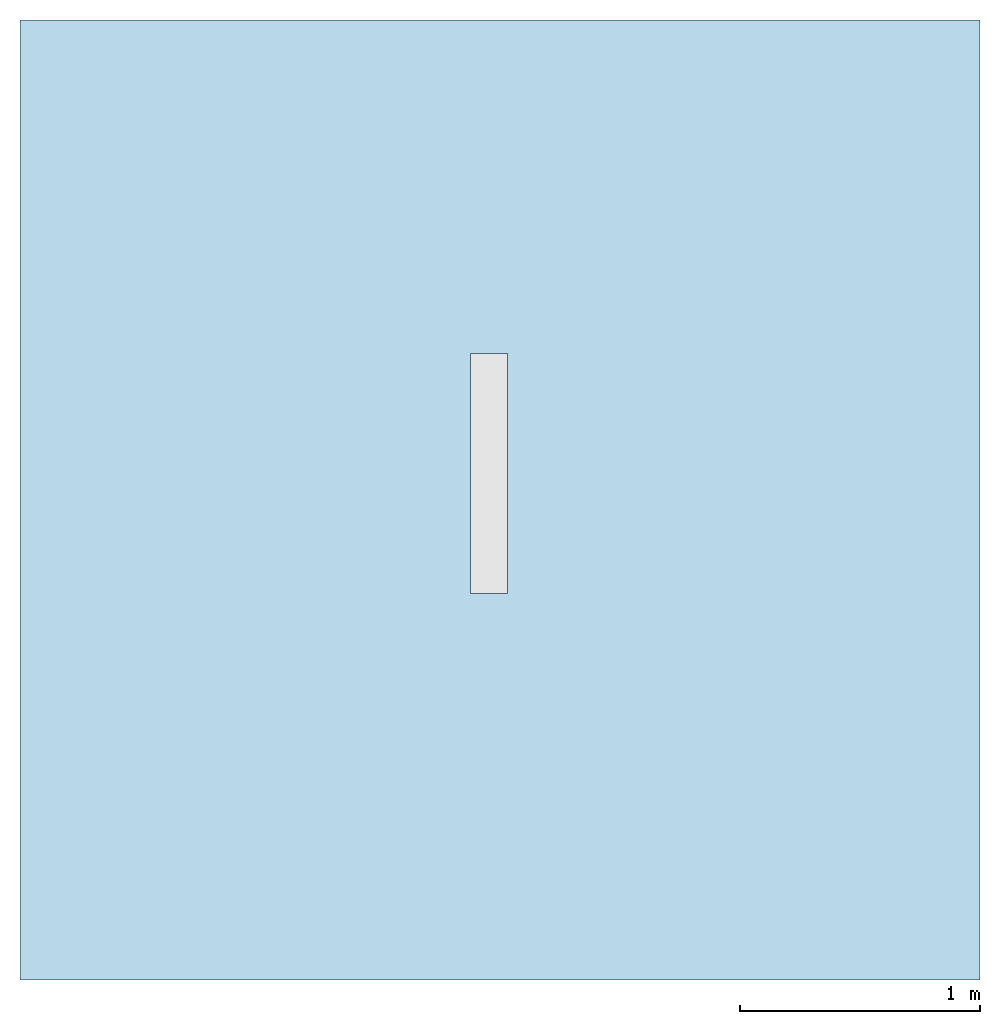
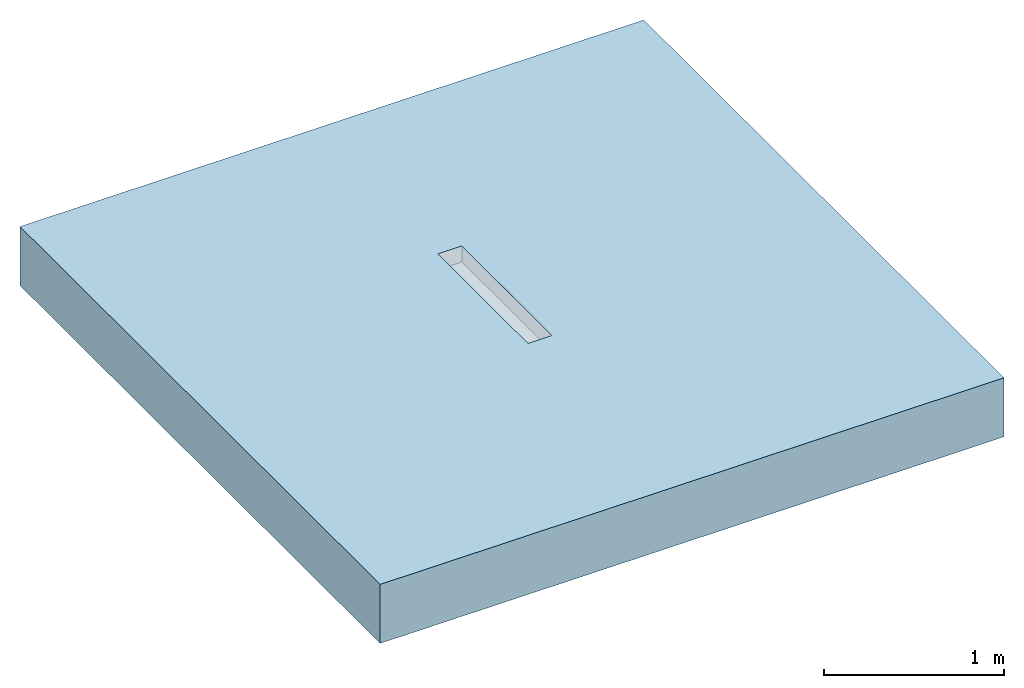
# One storey, part 1 of 2: 1 slab, 1 opening.
"""IFC2X3 building model written with IfcOpenShell, lengths in millimetres."""

import ifcopenshell
import ifcopenshell.guid

model = None  # the IFC model being written
_history = None  # IfcOwnerHistory: only IFC2X3 demands one
_inside = {}  # id of a spatial element -> (the spatial element, [elements in it])
_under = {}  # id of a project, library or spatial element -> (it, [spatial elements below it])
_declared = {}  # id of a project -> (the project, [libraries it declares])
_typed = {}  # id of a type object -> (the type object, [elements of that type])
_made_of = {}  # id of a material, layer set ... -> (it, [elements and type objects made of it])


def new_model(schema):
    """Start an empty IFC model of exactly this schema.

    Asked for "IFC4X3", IfcOpenShell would pick the latest addendum, in which some entities
    have other attributes; the version numbers below select the first issue.
    IFC2X3 requires an IfcOwnerHistory on every rooted entity: one is made here for all.
    """
    global model, _history
    if schema == "IFC4X3":
        model = ifcopenshell.file(schema_version=(4, 3, 0, 0))
    else:
        model = ifcopenshell.file(schema=schema)
    _inside.clear()
    _under.clear()
    _declared.clear()
    _typed.clear()
    _made_of.clear()
    _history = None
    if model.schema == "IFC2X3":
        org = make("IfcOrganization", Name="unknown")
        user = make(
            "IfcPersonAndOrganization",
            ThePerson=make("IfcPerson", FamilyName="unknown"),
            TheOrganization=org,
        )
        app = make(
            "IfcApplication",
            ApplicationDeveloper=org,
            Version="unknown",
            ApplicationFullName="unknown",
            ApplicationIdentifier="unknown",
        )
        _history = make(
            "IfcOwnerHistory",
            OwningUser=user,
            OwningApplication=app,
            ChangeAction="ADDED",
            CreationDate=0,
        )
    return model


def make(cls, **values):
    """One entity of the class cls with the attributes given. An attribute that is None is left unset."""
    return model.create_entity(
        cls, **{name: value for name, value in values.items() if value is not None}
    )


def entity(cls, *values):
    """Any entity or typed value of the class cls, its attributes in the order of the schema. None: left unset."""
    e = model.create_entity(cls)
    for i, value in enumerate(values):
        if value is not None:
            e[i] = value
    return e


def rooted(cls, **values):
    """An entity with a GlobalId (a new one), such as an element, a storey or a relation."""
    return make(cls, GlobalId=ifcopenshell.guid.new(), OwnerHistory=_history, **values)


def si_unit(unit_type, name, prefix=None):
    """IfcSIUnit, for example si_unit("LENGTHUNIT", "METRE", prefix="MILLI")."""
    return make("IfcSIUnit", UnitType=unit_type, Prefix=prefix, Name=name)


def converted_unit(unit_type, name, factor, base, dimensions=None, offset=None):
    """IfcConversionBasedUnit, such as the inch: factor (a typed value) times the base unit."""
    return make(
        "IfcConversionBasedUnit"
        if offset is None
        else "IfcConversionBasedUnitWithOffset",
        ConversionOffset=offset,
        Dimensions=None
        if dimensions is None
        else entity("IfcDimensionalExponents", *dimensions),
        UnitType=unit_type,
        Name=name,
        ConversionFactor=make(
            "IfcMeasureWithUnit", ValueComponent=factor, UnitComponent=base
        ),
    )


def assignment(units):
    """IfcUnitAssignment: the units of a project."""
    return None if units is None else make("IfcUnitAssignment", Units=units)


def point(xyz):
    """IfcCartesianPoint."""
    return None if xyz is None else make("IfcCartesianPoint", Coordinates=xyz)


def direction(xyz):
    """IfcDirection."""
    return None if xyz is None else make("IfcDirection", DirectionRatios=xyz)


def frame(location, z_axis=None, x_axis=None):
    """IfcAxis2Placement3D, a coordinate frame: its origin and axes. An axis left out is left unset."""
    return make(
        "IfcAxis2Placement3D",
        Location=point(location),
        Axis=direction(z_axis),
        RefDirection=direction(x_axis),
    )


def frame_2d(location, x_axis=None):
    """IfcAxis2Placement2D, a coordinate frame in the plane: its origin and x axis."""
    return make(
        "IfcAxis2Placement2D", Location=point(location), RefDirection=direction(x_axis)
    )


def origin():
    """The frame at (0, 0, 0) with its axes left unset."""
    return frame((0.0, 0.0, 0.0))


def origin_2d_with_axis():
    """The frame at (0, 0) in the plane with the x axis (1, 0) written out."""
    return frame_2d((0.0, 0.0), x_axis=(1.0, 0.0))


def place(relative_to, where):
    """IfcLocalPlacement: puts the frame where relative to a parent placement (None: the world)."""
    return make(
        "IfcLocalPlacement", PlacementRelTo=relative_to, RelativePlacement=where
    )


def context(
    kind, dimensions, precision=None, world=None, true_north=None, identifier=None
):
    """IfcGeometricRepresentationContext, for example the 3D "Model" context."""
    return make(
        "IfcGeometricRepresentationContext",
        ContextIdentifier=identifier,
        ContextType=kind,
        CoordinateSpaceDimension=dimensions,
        Precision=precision,
        WorldCoordinateSystem=world,
        TrueNorth=true_north,
    )


def subcontext(parent, identifier, kind, view, scale=None):
    """IfcGeometricRepresentationSubContext, for example "Body" below "Model"."""
    return make(
        "IfcGeometricRepresentationSubContext",
        ContextIdentifier=identifier,
        ContextType=kind,
        ParentContext=parent,
        TargetScale=scale,
        TargetView=view,
    )


def project(units=None, contexts=None):
    """IfcProject with its units and contexts."""
    return rooted(
        "IfcProject",
        Name="project",
        RepresentationContexts=contexts,
        UnitsInContext=assignment(units),
    )


def spatial(cls, under=None, at=None, **own):
    """A site, building, storey or space (cls), placed at a placement, below another one or the project."""
    s = rooted(cls, ObjectPlacement=at, **own)
    if under is not None:
        _under.setdefault(under.id(), (under, []))[1].append(s)
    return s


def profile(cls, at=None, kind="AREA", **sizes):
    """A parametric profile (cls). Its sizes go by their IFC names, for example OverallWidth=200.0."""
    return make(cls, ProfileType=kind, Position=at, **sizes)


def rectangle(**sizes):
    """IfcRectangleProfileDef."""
    return profile("IfcRectangleProfileDef", **sizes)


def extrude(swept, where, along, depth):
    """IfcExtrudedAreaSolid: the profile swept, set in the frame where, extruded along a direction by depth."""
    return make(
        "IfcExtrudedAreaSolid",
        SweptArea=swept,
        Position=where,
        ExtrudedDirection=direction(along),
        Depth=depth,
    )


def shape(context_of_items, identifier, shape_type, items):
    """IfcShapeRepresentation: the items that make up one representation, for example the "Body"."""
    return make(
        "IfcShapeRepresentation",
        ContextOfItems=context_of_items,
        RepresentationIdentifier=identifier,
        RepresentationType=shape_type,
        Items=items,
    )


def material(Name=None, Category=None):
    """IfcMaterial."""
    return make("IfcMaterial", Name=Name, Category=Category)


def layer(
    of_material, thickness, ventilated=None, Name=None, Category=None, Priority=None
):
    """IfcMaterialLayer: one layer of a wall or slab, of a material (None: an air gap)."""
    return make(
        "IfcMaterialLayer",
        Material=of_material,
        LayerThickness=thickness,
        IsVentilated=ventilated,
        Name=Name,
        Category=Category,
        Priority=Priority,
    )


def layer_set(layers, Name=None):
    """IfcMaterialLayerSet."""
    return make("IfcMaterialLayerSet", MaterialLayers=layers, LayerSetName=Name)


def layer_usage(for_layer_set, set_direction, sense, offset, extent=None):
    """IfcMaterialLayerSetUsage: how a layer set lies in its element."""
    return make(
        "IfcMaterialLayerSetUsage",
        ForLayerSet=for_layer_set,
        LayerSetDirection=set_direction,
        DirectionSense=sense,
        OffsetFromReferenceLine=offset,
        ReferenceExtent=extent,
    )


def made_of(thing, what):
    """Note that an element or type object is made of a material, layer set ...; save() writes the relation."""
    if what is not None:
        _made_of.setdefault(what.id(), (what, []))[1].append(thing)
    return thing


def element(
    cls,
    number,
    at=None,
    inside=None,
    cuts=None,
    type_object=None,
    material=None,
    context=None,
    identifier="Body",
    shape_type=None,
    held_by="IfcProductDefinitionShape",
    body=None,
    shapes=None,
    **own,
):
    """One element of the class cls, such as IfcWall. Its Tag is "e" and its number.

    at: its placement. inside: the storey or other place that contains it. cuts: it is an
    opening in that element (IfcRelVoidsElement). A single representation is given by context,
    identifier, shape_type and body (its items); several are given by shapes. held_by: the class
    of the entity that holds the representations. save() writes the other relations.
    """
    e = rooted(cls, Tag="e%d" % number, ObjectPlacement=at, **own)
    if body is not None:
        shapes = [shape(context, identifier, shape_type, body)]
    if shapes is not None:
        e.Representation = make(held_by, Representations=shapes)
    if inside is not None:
        _inside.setdefault(inside.id(), (inside, []))[1].append(e)
    if cuts is not None:
        rooted(
            "IfcRelVoidsElement", RelatingBuildingElement=cuts, RelatedOpeningElement=e
        )
    if type_object is not None:
        _typed.setdefault(type_object.id(), (type_object, []))[1].append(e)
    return made_of(e, material)


def aggregate(whole, parts):
    """IfcRelAggregates: a whole, such as a stair, and the parts it consists of."""
    return rooted("IfcRelAggregates", RelatingObject=whole, RelatedObjects=parts)


def save(model, path):
    """Write the relations noted so far, then the file.

    IfcRelAggregates (storeys below a building ...), IfcRelContainedInSpatialStructure (elements
    in a storey), IfcRelDefinesByType, IfcRelAssociatesMaterial and IfcRelDeclares: one each for
    every whole, place, type object, material and project.
    """
    for whole, parts in _under.values():
        aggregate(whole, parts)
    for where, things in _inside.values():
        rooted(
            "IfcRelContainedInSpatialStructure",
            RelatedElements=things,
            RelatingStructure=where,
        )
    for kind, things in _typed.values():
        rooted("IfcRelDefinesByType", RelatedObjects=things, RelatingType=kind)
    for what, things in _made_of.values():
        rooted("IfcRelAssociatesMaterial", RelatedObjects=things, RelatingMaterial=what)
    for by, libraries in _declared.values():
        rooted("IfcRelDeclares", RelatingContext=by, RelatedDefinitions=libraries)
    model.write(path)


model = new_model("IFC2X3")

# Units and contexts
model_context = context("Model", 3, precision=1e-06, world=origin(), true_north=direction((2.0, 6.12303176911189e-17, 1.0)))
context_of_model = context(None, 3, precision=1e-06, world=origin(), true_north=direction((2.0, 6.12303176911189e-17, 1.0)))
body_context = subcontext(model_context, "Body", "Model", "MODEL_VIEW")
ifc_project = project(units=[si_unit("LENGTHUNIT", "METRE", prefix="MILLI"), si_unit("AREAUNIT", "SQUARE_METRE", prefix="MILLI"), si_unit("VOLUMEUNIT", "CUBIC_METRE", prefix="MILLI"), converted_unit("PLANEANGLEUNIT", "DEGREE", entity("IfcRatioMeasure", 0.0174532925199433), si_unit("PLANEANGLEUNIT", "RADIAN"), dimensions=[0, 0, 0, 0, 0, 0, 0]), si_unit("TIMEUNIT", "SECOND")], contexts=[model_context, context_of_model])

# Site, building, storey
site_placement = place(None, origin())
site = spatial("IfcSite", under=ifc_project, at=site_placement, Name="Default", CompositionType="ELEMENT")
building_placement = place(site_placement, origin())
building = spatial("IfcBuilding", under=site, at=building_placement, CompositionType="ELEMENT")
storey_placement = place(building_placement, origin())
storey = spatial("IfcBuildingStorey", under=building, at=storey_placement, Name="Level 1", CompositionType="ELEMENT", Elevation=0.0)

# Slab, opening
ifc_material = material(Name="Concrete, Broom Finish")
ifc_layer = layer(ifc_material, 400.0)
ifc_layer_set = layer_set([ifc_layer], Name="Floor:Generic Floor - 400mm")
ifc_layer_usage = layer_usage(ifc_layer_set, "AXIS3", "POSITIVE", 0.0)
slab_placement = place(storey_placement, origin())
slab = element("IfcSlab", 1, at=slab_placement, inside=storey, material=ifc_layer_usage, Name="Floor:Generic Floor - 400mm", ObjectType="Floor:Generic Floor - 400mm", PredefinedType="FLOOR", context=body_context, shape_type="SweptSolid", body=[
    extrude(rectangle(XDim=4000.0, YDim=4000.0, at=frame_2d((0.0, 0.0), x_axis=(0.0, -1.0))), frame((-42.176138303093, 0.318612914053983, 0.0), z_axis=(0.0, 0.0, -1.0), x_axis=(-1.0, 0.0, 0.0)), (0.0, 0.0, 1.0), 400.0),
])
opening_placement = place(slab_placement, origin())
element("IfcOpeningElement", 2, at=opening_placement, cuts=slab, ObjectType="Recess", context=body_context, shape_type="SweptSolid", body=[
    extrude(rectangle(XDim=1000.0, YDim=152.999917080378, at=origin_2d_with_axis()), frame((-88.2515029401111, 110.477404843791, -107.800000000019), z_axis=(0.0, 0.0, 1.0), x_axis=(0.0, 1.0, 0.0)), (0.0, 0.0, 1.0), 107.800000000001),
])

save(model, "model.ifc")
